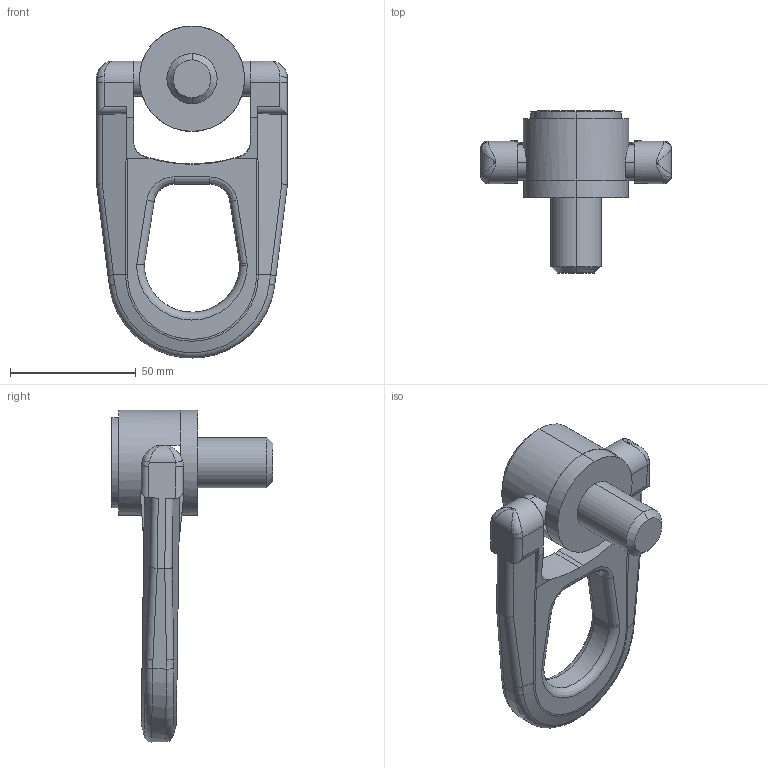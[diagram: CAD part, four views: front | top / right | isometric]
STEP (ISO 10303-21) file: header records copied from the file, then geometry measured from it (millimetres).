
FILE_DESCRIPTION (( 'STEP AP203' ), '1' );
FILE_NAME ('Default.step', '2013-12-13T15:20:29', ( 'User' ), ( '' ), 'SwSTEP 2.0', 'SolidWorks 2009', '' );
FILE_SCHEMA (( 'CONFIG_CONTROL_DESIGN' ));
Length unit declared in the file: millimetre
Products named in the file (3): Part3; Default; Part1
Assembly tree (2 placements, depth 2):
  Default
    Part1
    Part3
Bounding box: 76 x 64.5 x 132.2 mm (x, y, z)
Volume: 110058.6 mm3; surface area: 27586.2 mm2
Topology: 2 solids, 2 shells, 132 faces, 332 edges, 205 vertices
Faces by surface type: plane 47, cylinder 45, bspline 26, cone 7, torus 7
Entity records: 6596 total; most frequent: CARTESIAN_POINT 3362, ORIENTED_EDGE 664, DIRECTION 560, EDGE_CURVE 332, AXIS2_PLACEMENT_3D 206, VERTEX_POINT 205, VECTOR 148, LINE 148
